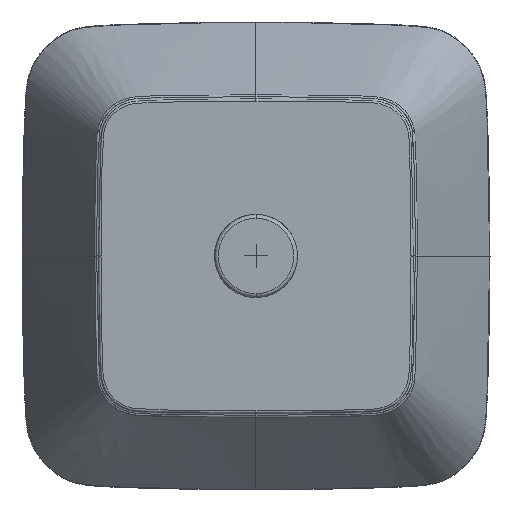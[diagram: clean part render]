
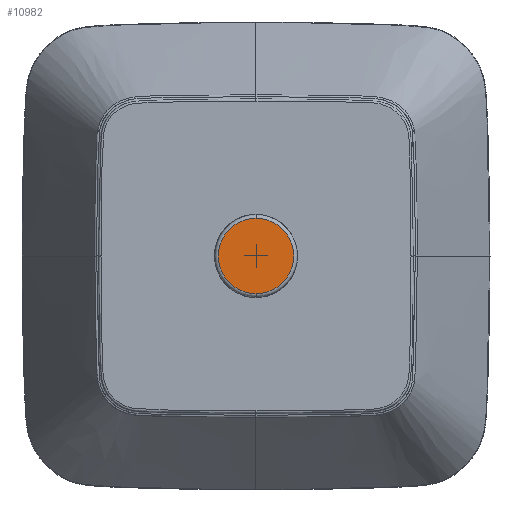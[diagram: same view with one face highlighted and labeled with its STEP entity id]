
A CAD part, front view. The second image highlights one B-rep face of the part: STEP entity #10982.
In plain terms, the highlighted planar face has unit normal (0, -1, 0).
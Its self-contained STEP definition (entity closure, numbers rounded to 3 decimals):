
#2257=CARTESIAN_POINT('',(0.,715.784,250.));
#2258=DIRECTION('',(0.,1.,0.));
#2259=DIRECTION('',(0.,0.,1.));
#2260=AXIS2_PLACEMENT_3D('',#2257,#2258,#2259);
#2262=CARTESIAN_POINT('',(0.,715.784,250.));
#2263=DIRECTION('',(0.,-1.,0.));
#2264=DIRECTION('',(0.,0.,1.));
#2265=AXIS2_PLACEMENT_3D('',#2262,#2263,#2264);
#2343=CARTESIAN_POINT('',(0.001,715.784,217.749));
#2344=VERTEX_POINT('',#2343);
#2345=CARTESIAN_POINT('',(0.002,715.784,282.251));
#2346=VERTEX_POINT('',#2345);
#10973=CARTESIAN_POINT('',(0.,715.784,250.));
#10974=DIRECTION('',(0.,1.,0.));
#10975=DIRECTION('',(0.,0.,1.));
#10976=AXIS2_PLACEMENT_3D('',#10973,#10974,#10975);
#10977=PLANE('',#10976);
#10978=ORIENTED_EDGE('',*,*,#10966,.T.);
#10979=ORIENTED_EDGE('',*,*,#10955,.F.);
#10980=EDGE_LOOP('',(#10978,#10979));
#10981=FACE_OUTER_BOUND('',#10980,.F.);
#10982=ADVANCED_FACE('',(#10981),#10977,.F.);
#2261=CIRCLE('',#2260,32.251);
#2266=CIRCLE('',#2265,32.251);
#10955=EDGE_CURVE('',#2346,#2344,#2266,.T.);
#10966=EDGE_CURVE('',#2346,#2344,#2261,.T.);
